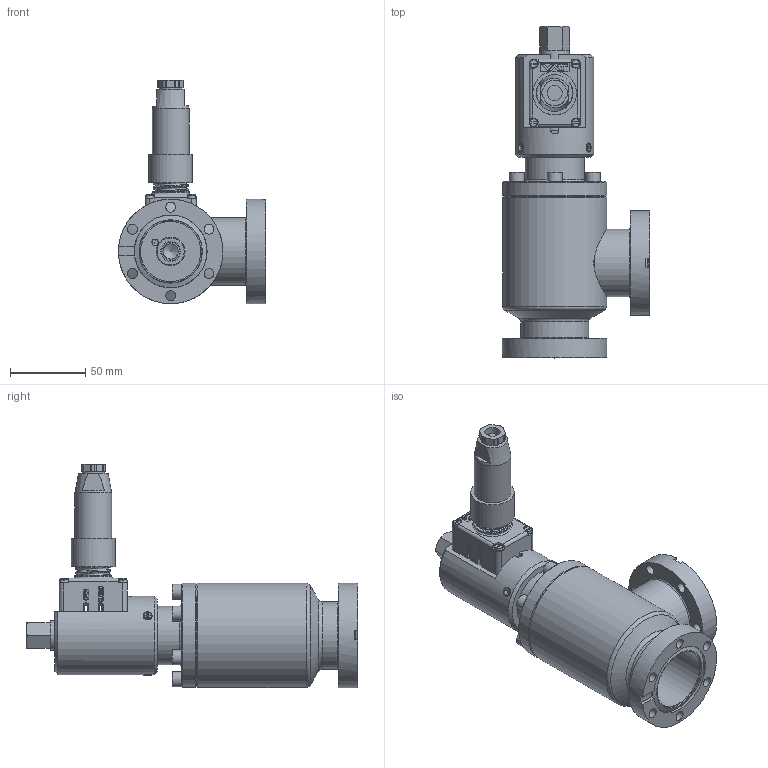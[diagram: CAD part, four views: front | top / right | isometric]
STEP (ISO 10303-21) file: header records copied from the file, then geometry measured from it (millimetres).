
FILE_DESCRIPTION(/* description */ (''),/* implementation_level */ '2;1');
FILE_NAME(/* name */ '1547846200_203.stp',/* time_stamp */ '2010-08-19T13:44:18+02:00',/* author */ (''),/* organization */ (''),/* preprocessor_version */ 'ST-DEVELOPER v11',/* originating_system */ 'SIEMENS UGS NX 6.0',/* authorisation */ '');
FILE_SCHEMA (('CONFIG_CONTROL_DESIGN'));
Length unit declared in the file: millimetre
Products named in the file (12): n-8504-002; 69672-01; N-6016-078.1; 100342-01.3; 226422; 214275_1; 257611; n-5019-790; n-6072-053.1; 83306-01.1; 208468.5; 252800
Assembly tree (22 placements, depth 2):
  252800
    208468.5
    83306-01.1
    n-6072-053.1  x3
    n-5019-790  x6
    257611  x2
    214275_1
    226422
    100342-01.3
    N-6016-078.1  x4
    69672-01
    n-8504-002
Bounding box: 97.62 x 220.07 x 148.18 mm (x, y, z)
Volume: 382166.9 mm3; surface area: 156876.2 mm2
Topology: 45 solids, 45 shells, 707 faces, 1681 edges, 1129 vertices
Faces by surface type: plane 362, cylinder 229, cone 72, bspline 24, torus 20
Full cylindrical faces by diameter (mm): 1.95 x4, 2.25 x4, 2.46 x4, 2.5 x8, 3 x8, 3.4 x4, 4.15 x6, 4.2 x1, 4.96 x9, 5 x15, 6 x28, 6.4 x6, 6.6 x12, 10 x7, 10.25 x1, 10.3 x1, 12.125 x1, 13.3 x1, 13.85 x1, 14.9 x1, 15 x1, 15.95 x1, 17.55 x1, 17.925 x1, 19.7 x1, 23.5 x1, 24.3 x1, 24.5 x1, 24.65 x1, 27.2 x1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
Entity records: 20389 total; most frequent: CARTESIAN_POINT 7174, DIRECTION 2272, ORIENTED_EDGE 2168, EDGE_CURVE 1084, AXIS2_PLACEMENT_3D 917, VERTEX_POINT 867, EDGE_LOOP 849, FACE_BOUND 612
